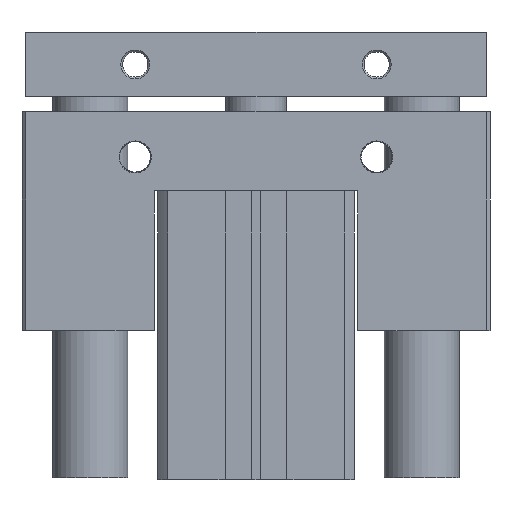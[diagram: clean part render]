
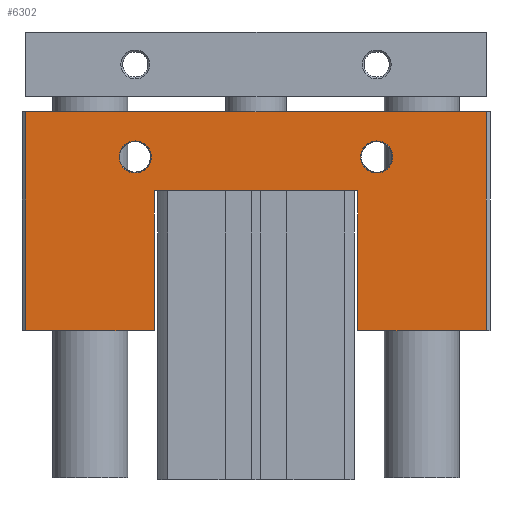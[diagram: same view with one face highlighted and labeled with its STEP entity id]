
A CAD part, front view. The second image highlights one B-rep face of the part: STEP entity #6302.
In plain terms, the highlighted planar face has unit normal (0, -1, 0).
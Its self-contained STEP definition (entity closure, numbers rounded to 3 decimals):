
#1027=CARTESIAN_POINT('',(-60.402,-25.945,97.5));
#1028=VERTEX_POINT('',#1027);
#1035=CARTESIAN_POINT('',(61.598,-25.945,97.5));
#1036=VERTEX_POINT('',#1035);
#1037=CARTESIAN_POINT('',(-60.402,-25.945,97.5));
#1038=DIRECTION('',(1.0,0.0,0.0));
#1039=VECTOR('',#1038,122.);
#1040=LINE('',#1037,#1039);
#1041=EDGE_CURVE('',#1028,#1036,#1040,.T.);
#2137=CARTESIAN_POINT('',(-60.402,-25.945,39.5));
#2138=VERTEX_POINT('',#2137);
#2145=CARTESIAN_POINT('',(-60.402,-25.945,39.5));
#2146=DIRECTION('',(0.0,0.0,1.0));
#2147=VECTOR('',#2146,58.);
#2148=LINE('',#2145,#2147);
#2149=EDGE_CURVE('',#2138,#1028,#2148,.T.);
#2159=CARTESIAN_POINT('',(61.598,-25.945,39.5));
#2160=VERTEX_POINT('',#2159);
#2169=CARTESIAN_POINT('',(61.598,-25.945,97.5));
#2170=DIRECTION('',(0.0,0.0,-1.0));
#2171=VECTOR('',#2170,58.);
#2172=LINE('',#2169,#2171);
#2173=EDGE_CURVE('',#1036,#2160,#2172,.T.);
#2334=CARTESIAN_POINT('',(28.348,-25.945,85.5));
#2335=VERTEX_POINT('',#2334);
#2336=CARTESIAN_POINT('',(32.598,-25.945,85.5));
#2337=DIRECTION('',(0.0,1.0,0.0));
#2338=DIRECTION('',(1.0,0.0,0.0));
#2339=AXIS2_PLACEMENT_3D('',#2336,#2337,#2338);
#2340=CIRCLE('',#2339,4.25);
#2341=EDGE_CURVE('',#2335,#2335,#2340,.T.);
#2413=CARTESIAN_POINT('',(-35.652,-25.945,85.5));
#2414=VERTEX_POINT('',#2413);
#2415=CARTESIAN_POINT('',(-31.402,-25.945,85.5));
#2416=DIRECTION('',(0.0,1.0,0.0));
#2417=DIRECTION('',(1.0,0.0,0.0));
#2418=AXIS2_PLACEMENT_3D('',#2415,#2416,#2417);
#2419=CIRCLE('',#2418,4.25);
#2420=EDGE_CURVE('',#2414,#2414,#2419,.T.);
#6248=CARTESIAN_POINT('',(0.598,-25.945,71.288));
#6249=DIRECTION('',(0.0,1.0,0.0));
#6250=DIRECTION('',(0.0,0.0,1.0));
#6251=AXIS2_PLACEMENT_3D('',#6248,#6249,#6250);
#6252=PLANE('',#6251);
#6253=ORIENTED_EDGE('',*,*,#2149,.F.);
#6254=CARTESIAN_POINT('',(-26.402,-25.945,39.5));
#6255=VERTEX_POINT('',#6254);
#6256=CARTESIAN_POINT('',(-26.402,-25.945,39.5));
#6257=DIRECTION('',(-1.0,0.0,0.0));
#6258=VECTOR('',#6257,34.);
#6259=LINE('',#6256,#6258);
#6260=EDGE_CURVE('',#6255,#2138,#6259,.T.);
#6261=ORIENTED_EDGE('',*,*,#6260,.F.);
#6262=CARTESIAN_POINT('',(-26.402,-25.945,76.5));
#6263=VERTEX_POINT('',#6262);
#6264=CARTESIAN_POINT('',(-26.402,-25.945,76.5));
#6265=DIRECTION('',(0.0,0.0,-1.0));
#6266=VECTOR('',#6265,37.);
#6267=LINE('',#6264,#6266);
#6268=EDGE_CURVE('',#6263,#6255,#6267,.T.);
#6269=ORIENTED_EDGE('',*,*,#6268,.F.);
#6270=CARTESIAN_POINT('',(27.598,-25.945,76.5));
#6271=VERTEX_POINT('',#6270);
#6272=CARTESIAN_POINT('',(27.598,-25.945,76.5));
#6273=DIRECTION('',(-1.0,0.0,0.0));
#6274=VECTOR('',#6273,54.0);
#6275=LINE('',#6272,#6274);
#6276=EDGE_CURVE('',#6271,#6263,#6275,.T.);
#6277=ORIENTED_EDGE('',*,*,#6276,.F.);
#6278=CARTESIAN_POINT('',(27.598,-25.945,39.5));
#6279=VERTEX_POINT('',#6278);
#6280=CARTESIAN_POINT('',(27.598,-25.945,39.5));
#6281=DIRECTION('',(0.0,0.0,1.0));
#6282=VECTOR('',#6281,37.);
#6283=LINE('',#6280,#6282);
#6284=EDGE_CURVE('',#6279,#6271,#6283,.T.);
#6285=ORIENTED_EDGE('',*,*,#6284,.F.);
#6286=CARTESIAN_POINT('',(61.598,-25.945,39.5));
#6287=DIRECTION('',(-1.0,0.0,0.0));
#6288=VECTOR('',#6287,34.0);
#6289=LINE('',#6286,#6288);
#6290=EDGE_CURVE('',#2160,#6279,#6289,.T.);
#6291=ORIENTED_EDGE('',*,*,#6290,.F.);
#6292=ORIENTED_EDGE('',*,*,#2173,.F.);
#6293=ORIENTED_EDGE('',*,*,#1041,.F.);
#6294=EDGE_LOOP('',(#6253,#6261,#6269,#6277,#6285,#6291,#6292,#6293));
#6295=FACE_OUTER_BOUND('',#6294,.T.);
#6296=ORIENTED_EDGE('',*,*,#2341,.T.);
#6297=EDGE_LOOP('',(#6296));
#6298=FACE_BOUND('',#6297,.T.);
#6299=ORIENTED_EDGE('',*,*,#2420,.T.);
#6300=EDGE_LOOP('',(#6299));
#6301=FACE_BOUND('',#6300,.T.);
#6302=ADVANCED_FACE('',(#6295,#6298,#6301),#6252,.F.);
